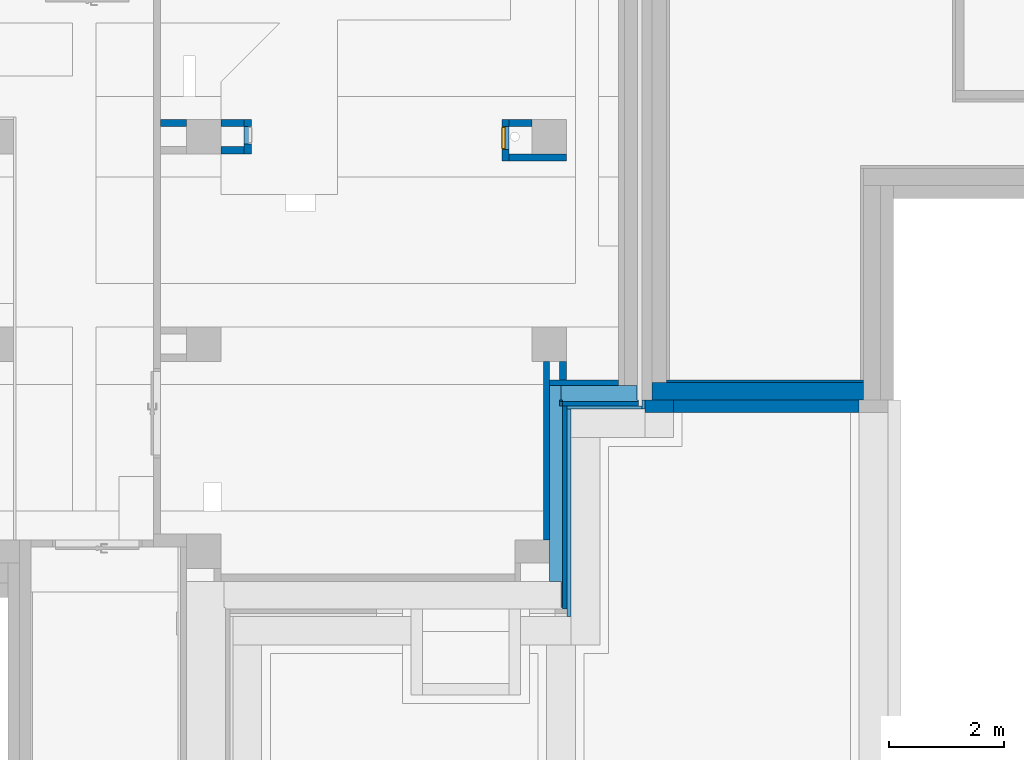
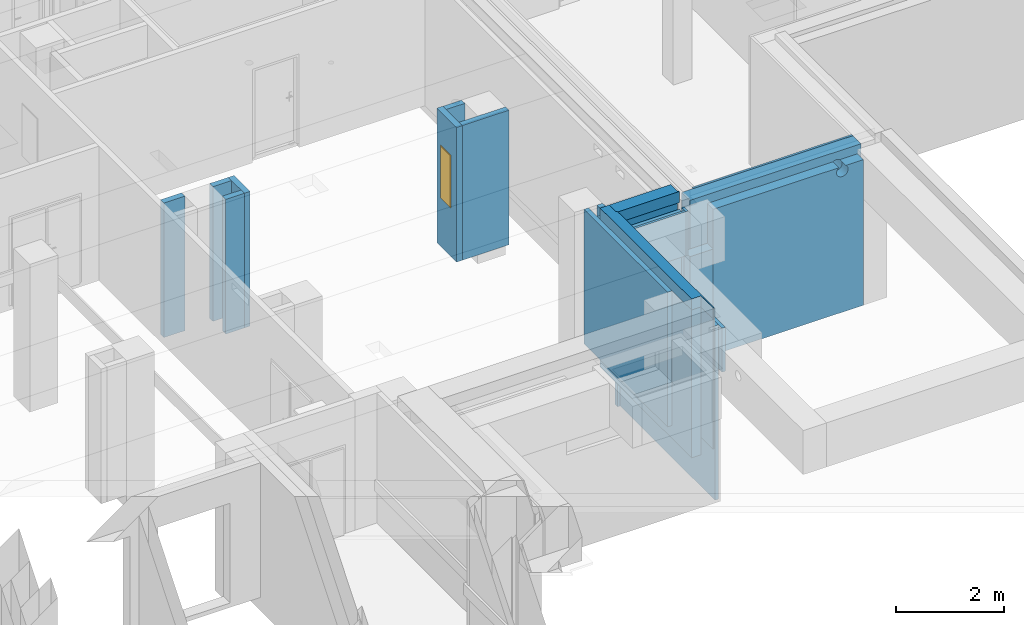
# One storey, part 20 of 84: 21 walls, 1 window, 5 openings.
"""IFC4 building model written with IfcOpenShell, lengths in metres."""

from ifc_helpers import new_model, entity, si_unit, converted_unit, derived_unit, frame, frame_2d, origin, origin_with_axes, place, context, subcontext, project, spatial, polyline, rectangle, outline, extrude, clip, bounded_halfspace, faceted_brep, source, transform, mapped, material, layer, layer_set, layer_usage, element, fill, save


model = new_model("IFC4")

# Units and contexts
model_context = context("Model", 3, precision=1e-05, world=origin())
body_context = subcontext(model_context, "Body", "Model", "MODEL_VIEW")
ifc_project = project(units=[si_unit("LENGTHUNIT", "METRE"), si_unit("AREAUNIT", "SQUARE_METRE"), si_unit("VOLUMEUNIT", "CUBIC_METRE"), si_unit("MASSUNIT", "GRAM", prefix="KILO"), converted_unit("PLANEANGLEUNIT", "DEGREE", entity("IfcPlaneAngleMeasure", 0.0174532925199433), si_unit("PLANEANGLEUNIT", "RADIAN"), dimensions=[0, 0, 0, 0, 0, 0, 0]), derived_unit("THERMALTRANSMITTANCEUNIT", [(si_unit("POWERUNIT", "WATT"), 1), (si_unit("THERMODYNAMICTEMPERATUREUNIT", "KELVIN"), -1), (si_unit("LENGTHUNIT", "METRE"), -2)]), derived_unit("VOLUMETRICFLOWRATEUNIT", [(si_unit("LENGTHUNIT", "METRE"), 3), (converted_unit("TIMEUNIT", "hour", entity("IfcTimeMeasure", 3600.0), si_unit("TIMEUNIT", "SECOND"), dimensions=[0, 0, 1, 0, 0, 0, 0]), -1), (si_unit("LENGTHUNIT", "METRE"), -1)])], contexts=[model_context])

# Site, building, storey
site_placement = place(None, origin())
site = spatial("IfcSite", under=ifc_project, at=site_placement, Name="3. ASŘ", CompositionType="ELEMENT")
building_placement = place(site_placement, origin())
building = spatial("IfcBuilding", under=site, at=building_placement, Name="Pavilon C", CompositionType="ELEMENT")
storey_placement = place(building_placement, frame((0.0, 0.0, -3.3)))
storey = spatial("IfcBuildingStorey", under=building, at=storey_placement, Name="Půdorys 1.PP", CompositionType="ELEMENT", Elevation=-3.3)

# Wall
ifc_material_1 = material(Name="ZDIVO Z CDm")
ifc_layer_1 = layer(ifc_material_1, 0.125)
ifc_layer_set_1 = layer_set([ifc_layer_1])
ifc_layer_usage_1 = layer_usage(ifc_layer_set_1, "AXIS2", "POSITIVE", 0.0)
wall_1_placement = place(storey_placement, frame((50.25, 2.97999999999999, -0.1), z_axis=(0.0, 0.0, 1.0), x_axis=(0.0, 1.0, 0.0)))
element("IfcWall", 1, at=wall_1_placement, inside=storey, material=ifc_layer_usage_1, Name="ZDIVO Z CDm", context=body_context, shape_type="SweptSolid", body=[
    extrude(rectangle(XDim=0.319999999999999, YDim=0.125, at=frame_2d((0.16, 0.0625), x_axis=(1.0, 0.0))), origin_with_axes(), (0.0, 0.0, 1.0), 3.05),
])

# Wall, opening, window
ifc_material_2 = material(Name="ZDIVO Z CDm")
ifc_layer_2 = layer(ifc_material_2, 0.125)
ifc_layer_set_2 = layer_set([ifc_layer_2])
ifc_layer_usage_2 = layer_usage(ifc_layer_set_2, "AXIS2", "POSITIVE", 0.0)
wall_2_placement = place(storey_placement, frame((49.25, 6.77499999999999, -0.1), z_axis=(0.0, 0.0, 1.0), x_axis=(0.0, 1.0, 0.0)))
wall_2 = element("IfcWall", 2, at=wall_2_placement, inside=storey, material=ifc_layer_usage_2, Name="ZDIVO Z CDm", context=body_context, shape_type="SweptSolid", body=[
    extrude(rectangle(XDim=0.725, YDim=0.125, at=frame_2d((0.3625, 0.0625), x_axis=(1.0, 0.0))), origin_with_axes(), (0.0, 0.0, 1.0), 3.05),
])
opening_1_placement = place(wall_2_placement, frame((0.6, 0.125, 1.1), z_axis=(0.0, -1.0, 0.0), x_axis=(0.0, 0.0, 1.0)))
opening_1 = element("IfcOpeningElement", 3, at=opening_1_placement, cuts=wall_2, Name="Okenní otvor", ObjectType="Opening", context=body_context, shape_type="SweptSolid", body=[
    extrude(outline(polyline([(0.0, 0.4), (1.2, 0.4), (1.2, 0.0), (0.0, 0.0), (0.0, 0.4)])), origin_with_axes(), (0.0, 0.0, 1.0), 0.125),
])
shared_shape = source(origin_with_axes(), body_context, "Body", "Brep", [
    faceted_brep([(0.0, 0.0600000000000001, 1.2), (0.0, 0.06, 4.91096680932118e-19), (0.02, 0.06, 4.91096680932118e-19), (0.02, 0.0600000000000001, 1.2), (0.0, 0.01, 6.61433067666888e-18), (0.0, 0.0100000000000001, 1.2), (0.02, 0.0100000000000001, 1.2), (0.02, 0.01, 6.61433067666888e-18)], [[[0, 1, 2, 3]], [[4, 5, 6, 7]], [[1, 0, 5, 4]], [[2, 1, 4, 7]], [[3, 2, 7, 6]], [[0, 3, 6, 5]]], orient=[[False], [False], [False], [False], [False], [False]]),
    faceted_brep([(0.38, 0.0600000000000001, 1.2), (0.38, 0.06, 4.91096680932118e-19), (0.4, 0.06, 4.91096680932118e-19), (0.4, 0.0600000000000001, 1.2), (0.38, 0.01, 6.61433067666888e-18), (0.38, 0.0100000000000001, 1.2), (0.4, 0.0100000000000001, 1.2), (0.4, 0.01, 6.61433067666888e-18)], [[[0, 1, 2, 3]], [[4, 5, 6, 7]], [[1, 0, 5, 4]], [[2, 1, 4, 7]], [[3, 2, 7, 6]], [[0, 3, 6, 5]]], orient=[[False], [False], [False], [False], [False], [False]]),
    faceted_brep([(0.02, 0.06, 0.02), (0.02, 0.06, 4.91096680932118e-19), (0.38, 0.06, 4.91096680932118e-19), (0.38, 0.06, 0.02), (0.02, 0.01, 6.61433067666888e-18), (0.02, 0.01, 0.02), (0.38, 0.01, 0.02), (0.38, 0.01, 6.61433067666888e-18)], [[[0, 1, 2, 3]], [[4, 5, 6, 7]], [[1, 0, 5, 4]], [[2, 1, 4, 7]], [[3, 2, 7, 6]], [[0, 3, 6, 5]]], orient=[[False], [False], [False], [False], [False], [False]]),
    faceted_brep([(0.02, 0.0600000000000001, 1.2), (0.02, 0.0600000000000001, 1.18), (0.38, 0.0600000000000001, 1.18), (0.38, 0.0600000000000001, 1.2), (0.02, 0.0100000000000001, 1.18), (0.02, 0.0100000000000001, 1.2), (0.38, 0.0100000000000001, 1.2), (0.38, 0.0100000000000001, 1.18)], [[[0, 1, 2, 3]], [[4, 5, 6, 7]], [[1, 0, 5, 4]], [[2, 1, 4, 7]], [[3, 2, 7, 6]], [[0, 3, 6, 5]]], orient=[[False], [False], [False], [False], [False], [False]]),
    faceted_brep([(0.02, 0.0100000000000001, 1.18), (0.02, 0.01, 0.02), (0.38, 0.01, 0.02), (0.38, 0.0100000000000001, 1.18), (0.02, 0.0, 0.02), (0.02, 1.4210854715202e-16, 1.18), (0.38, 1.4210854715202e-16, 1.18), (0.38, 0.0, 0.02)], [[[0, 1, 2, 3]], [[4, 5, 6, 7]], [[1, 0, 5, 4]], [[2, 1, 4, 7]], [[3, 2, 7, 6]], [[0, 3, 6, 5]]], orient=[[False], [False], [False], [False], [False], [False]]),
])
window_placement = place(opening_1_placement, frame((0.0, 0.400000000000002, -0.0100000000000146), z_axis=(1.0, 0.0, 0.0), x_axis=(0.0, -1.0, -1.22464679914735e-16)))
window = element("IfcWindow", 4, at=window_placement, inside=storey, Name="O01", OverallHeight=1.2, OverallWidth=0.4, PartitioningType="USERDEFINED", PredefinedType="WINDOW", context=body_context, shape_type="MappedRepresentation", body=[
    mapped(shared_shape, transform((0.0, 0.0, 0.0), x_axis=(1.0, 0.0, 0.0), y_axis=(0.0, -1.0, 0.0), z_axis=(0.0, 0.0, 1.0), scale=1.0)),
])
fill(opening_1, window)

# Walls
ifc_material_3 = material(Name="ZDIVO Z CDm")
ifc_layer_3 = layer(ifc_material_3, 0.125)
ifc_layer_set_3 = layer_set([ifc_layer_3])
ifc_layer_usage_3 = layer_usage(ifc_layer_set_3, "AXIS2", "POSITIVE", 0.0)
wall_3_placement = place(storey_placement, frame((49.25, 7.37499999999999, -0.1)))
element("IfcWall", 5, at=wall_3_placement, inside=storey, material=ifc_layer_usage_3, Name="ZDIVO Z CDm", context=body_context, shape_type="SweptSolid", body=[
    extrude(rectangle(XDim=0.4, YDim=0.125, at=frame_2d((0.2, 0.0625), x_axis=(1.0, 0.0))), origin_with_axes(), (0.0, 0.0, 1.0), 3.05),
])
ifc_material_4 = material(Name="ZDIVO Z CDm")
ifc_layer_4 = layer(ifc_material_4, 0.125)
ifc_layer_set_4 = layer_set([ifc_layer_4])
ifc_layer_usage_4 = layer_usage(ifc_layer_set_4, "AXIS2", "POSITIVE", 0.0)
wall_4_placement = place(storey_placement, frame((50.25, 6.89999999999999, -0.1), z_axis=(0.0, 0.0, 1.0), x_axis=(-1.0, 0.0, 0.0)))
element("IfcWall", 6, at=wall_4_placement, inside=storey, material=ifc_layer_usage_4, Name="ZDIVO Z CDm", context=body_context, shape_type="SweptSolid", body=[
    extrude(rectangle(XDim=1.0, YDim=0.125, at=frame_2d((0.5, 0.0625), x_axis=(1.0, 0.0))), origin_with_axes(), (0.0, 0.0, 1.0), 3.05),
])
ifc_material_5 = material(Name="ZDIVO Z CDm")
ifc_layer_5 = layer(ifc_material_5, 0.125)
ifc_layer_set_5 = layer_set([ifc_layer_5])
ifc_layer_usage_5 = layer_usage(ifc_layer_set_5, "AXIS2", "POSITIVE", 0.0)
wall_5_placement = place(storey_placement, frame((43.65, 7.49999999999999, -0.1), z_axis=(0.0, 0.0, 1.0), x_axis=(-1.0, 0.0, 0.0)))
element("IfcWall", 7, at=wall_5_placement, inside=storey, material=ifc_layer_usage_5, Name="ZDIVO Z CDm", context=body_context, shape_type="SweptSolid", body=[
    extrude(rectangle(XDim=0.45, YDim=0.125, at=frame_2d((0.225, 0.0625), x_axis=(1.0, 0.0))), origin_with_axes(), (0.0, 0.0, 1.0), 3.05),
])
ifc_material_6 = material(Name="PÓROBETONOVÉ ZDIVO")
ifc_layer_6 = layer(ifc_material_6, 0.1)
ifc_layer_set_6 = layer_set([ifc_layer_6])
ifc_layer_usage_6 = layer_usage(ifc_layer_set_6, "AXIS2", "POSITIVE", 0.0)
wall_6_placement = place(storey_placement, frame((49.95, 2.87999999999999, -0.1)))
element("IfcWall", 8, at=wall_6_placement, inside=storey, material=ifc_layer_usage_6, Name="PÓROBETONOVÉ ZDIVO", context=body_context, shape_type="SweptSolid", body=[
    extrude(rectangle(XDim=1.2, YDim=0.1, at=frame_2d((0.6, 0.05), x_axis=(1.0, 0.0))), origin_with_axes(), (0.0, 0.0, 1.0), 3.05),
])
ifc_material_7 = material(Name="PÓROBETONOVÉ ZDIVO")
ifc_layer_7 = layer(ifc_material_7, 0.1)
ifc_layer_set_7 = layer_set([ifc_layer_7])
ifc_layer_usage_7 = layer_usage(ifc_layer_set_7, "AXIS2", "POSITIVE", 0.0)
wall_7_placement = place(storey_placement, frame((49.95, 0.19999999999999, -0.1), z_axis=(0.0, 0.0, 1.0), x_axis=(0.0, 1.0, 0.0)))
element("IfcWall", 9, at=wall_7_placement, inside=storey, material=ifc_layer_usage_7, Name="PÓROBETONOVÉ ZDIVO", context=body_context, shape_type="SweptSolid", body=[
    extrude(rectangle(XDim=3.1, YDim=0.1, at=frame_2d((1.55, 0.05), x_axis=(1.0, 0.0))), origin_with_axes(), (0.0, 0.0, 1.0), 3.05),
])

# Wall, opening
ifc_material_8 = material(Name="ZDIVO Z CDm")
ifc_layer_8 = layer(ifc_material_8, 0.125)
ifc_layer_set_8 = layer_set([ifc_layer_8])
ifc_layer_usage_8 = layer_usage(ifc_layer_set_8, "AXIS2", "POSITIVE", 0.0)
wall_8_placement = place(storey_placement, frame((44.65, 7.49999999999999, -0.1), z_axis=(0.0, 0.0, 1.0), x_axis=(0.0, -1.0, 0.0)))
wall_8 = element("IfcWall", 10, at=wall_8_placement, inside=storey, material=ifc_layer_usage_8, Name="ZDIVO Z CDm", context=body_context, shape_type="SweptSolid", body=[
    extrude(rectangle(XDim=0.6, YDim=0.125, at=frame_2d((0.3, 0.0625), x_axis=(1.0, 0.0))), origin_with_axes(), (0.0, 0.0, 1.0), 3.05),
])
opening_2_placement = place(wall_8_placement, frame((0.425, 0.125, 1.1), z_axis=(0.0, -1.0, 0.0), x_axis=(0.0, 0.0, 1.0)))
element("IfcOpeningElement", 11, at=opening_2_placement, cuts=wall_8, Name="Okenní otvor", ObjectType="Opening", context=body_context, shape_type="SweptSolid", body=[
    extrude(outline(polyline([(0.0, 0.3), (0.3, 0.3), (0.3, 0.0), (0.0, 0.0), (0.0, 0.3)])), origin_with_axes(), (0.0, 0.0, 1.0), 0.125),
])

# Walls
ifc_material_9 = material(Name="ZDIVO Z CDm")
ifc_layer_9 = layer(ifc_material_9, 0.125)
ifc_layer_set_9 = layer_set([ifc_layer_9])
ifc_layer_usage_9 = layer_usage(ifc_layer_set_9, "AXIS2", "POSITIVE", 0.0)
wall_9_placement = place(storey_placement, frame((44.25, 7.37499999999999, -0.1)))
element("IfcWall", 12, at=wall_9_placement, inside=storey, material=ifc_layer_usage_9, Name="ZDIVO Z CDm", context=body_context, shape_type="SweptSolid", body=[
    extrude(rectangle(XDim=0.4, YDim=0.125, at=frame_2d((0.2, 0.0625), x_axis=(1.0, 0.0))), origin_with_axes(), (0.0, 0.0, 1.0), 3.05),
])
ifc_material_10 = material(Name="ZDIVO Z CDm")
ifc_layer_10 = layer(ifc_material_10, 0.125)
ifc_layer_set_10 = layer_set([ifc_layer_10])
ifc_layer_usage_10 = layer_usage(ifc_layer_set_10, "AXIS2", "POSITIVE", 0.0)
wall_10_placement = place(storey_placement, frame((44.25, 6.89999999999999, -0.1)))
element("IfcWall", 13, at=wall_10_placement, inside=storey, material=ifc_layer_usage_10, Name="ZDIVO Z CDm", context=body_context, shape_type="SweptSolid", body=[
    extrude(rectangle(XDim=0.4, YDim=0.125, at=frame_2d((0.2, 0.0625), x_axis=(1.0, 0.0))), origin_with_axes(), (0.0, 0.0, 1.0), 3.05),
])
ifc_material_11 = material(Name="ZELEZOBETONOVÁ KCE")
ifc_layer_11 = layer(ifc_material_11, 0.25)
ifc_material_12 = material(Name="LIGNOPOR")
ifc_layer_12 = layer(ifc_material_12, 0.025)
ifc_material_13 = material(Name="PÓROBETONOVÉ ZDIVO")
ifc_layer_13 = layer(ifc_material_13, 0.08)
ifc_layer_set_11 = layer_set([ifc_layer_11, ifc_layer_12, ifc_layer_13])
ifc_layer_usage_11 = layer_usage(ifc_layer_set_11, "AXIS2", "POSITIVE", 0.0)
wall_11_placement = place(storey_placement, frame((51.25, 2.88, -1.15), z_axis=(0.0, 0.0, 1.0), x_axis=(-1.0, 0.0, 0.0)))
element("IfcWall", 14, at=wall_11_placement, inside=storey, material=ifc_layer_usage_11, Name="ZELEZOBETONOVÁ KCE", context=body_context, shape_type="Clipping", body=[
    clip(clip(clip(clip(clip(clip(extrude(outline(polyline([(-1.37, 0.0), (-1.37, -0.08), (-1.325, -0.08), (-1.325, -0.105), (-1.125, -0.105), (-1.125, -0.355), (-0.025, -0.355), (-0.025, -0.105), (0.0, -0.105), (0.0, 0.0), (-1.37, 0.0)])), frame((1.125, 0.355, 0.0), z_axis=(0.0, 0.0, 1.0), x_axis=(1.0, 0.0, 0.0)), (0.0, 0.0, 1.0), 4.1), bounded_halfspace(frame((0.55, 0.125, 0.75), z_axis=(0.0, 0.0, 1.0), x_axis=(0.0, -1.0, 0.0)), True, origin_with_axes(), polyline([(0.0, 0.25), (0.0, 4.54747350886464e-16), (1.1, 4.54747350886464e-16), (1.1, 0.25), (0.0, 0.25)]))), bounded_halfspace(frame((0.479166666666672, 0.2625, 1.15), z_axis=(1.74902827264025e-16, -7.69572439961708e-15, 1.0), x_axis=(-1.0, 0.0, 0.0)), True, origin_with_axes(), polyline([(1.1, 0.275), (1.075, 0.275), (-0.2, 0.275), (-0.2, 0.25), (0.0, 0.25), (1.1, 0.25), (1.1, 0.275)]))), bounded_halfspace(frame((-0.235, 0.315, 0.55), z_axis=(0.0, 0.0, 1.0), x_axis=(0.0, 1.0, 0.0)), True, origin_with_axes(), polyline([(-0.224999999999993, 0.275), (-0.224999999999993, 0.355), (-0.245, 0.355), (-0.245, 0.275), (-0.224999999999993, 0.275)]))), bounded_halfspace(frame((1.0875, 0.315, 1.15), z_axis=(0.0, 0.0, -1.0), x_axis=(1.0, 0.0, 0.0)), True, origin_with_axes(), polyline([(1.075, 0.275), (1.1, 0.275), (1.1, 0.355), (1.075, 0.355), (1.075, 0.275)]))), bounded_halfspace(frame((1.1125, 0.315, 0.75), z_axis=(0.0, 0.0, -1.0), x_axis=(0.0, -1.0, 0.0)), True, origin_with_axes(), polyline([(1.1, 0.355), (1.1, 0.275), (1.125, 0.275), (1.125, 0.355), (1.1, 0.355)]))), bounded_halfspace(frame((0.292, 0.307, 3.95), z_axis=(1.72252784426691e-16, -5.58744969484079e-15, -1.0), x_axis=(0.0, 1.0, -5.6843418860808e-15)), True, origin_with_axes(), polyline([(1.075, 0.275), (1.075, 0.355), (-0.245, 0.355), (-0.245, 0.275), (-0.2, 0.275), (1.075, 0.275)]))),
])
ifc_material_14 = material(Name="ZELEZOBETONOVÁ KCE")
ifc_layer_14 = layer(ifc_material_14, 0.2)
ifc_material_15 = material(Name="LIGNOPOR")
ifc_layer_15 = layer(ifc_material_15, 0.025)
ifc_material_16 = material(Name="PÓROBETONOVÉ ZDIVO")
ifc_layer_16 = layer(ifc_material_16, 0.08)
ifc_layer_set_12 = layer_set([ifc_layer_14, ifc_layer_15, ifc_layer_16])
ifc_layer_usage_12 = layer_usage(ifc_layer_set_12, "AXIS2", "POSITIVE", 0.0)
wall_12_placement = place(storey_placement, frame((49.95, 2.88, -1.15), z_axis=(0.0, 0.0, 1.0), x_axis=(0.0, -1.0, 0.0)))
element("IfcWall", 15, at=wall_12_placement, inside=storey, material=ifc_layer_usage_12, Name="ZELEZOBETONOVÁ KCE", context=body_context, shape_type="Clipping", body=[
    clip(clip(clip(extrude(outline(polyline([(-3.875, 0.0), (-0.475, 0.0), (-0.475, 0.2), (-0.025, 0.2), (-0.025, 0.225), (0.0, 0.225), (0.0, 0.305), (-3.52, 0.305), (-3.52, 0.225), (-3.6, 0.225), (-3.6, 0.2), (-3.875, 0.2), (-3.875, 0.0)])), frame((3.875, 0.0, 0.0), z_axis=(0.0, 0.0, 1.0), x_axis=(1.0, 0.0, 0.0)), (0.0, 0.0, 1.0), 4.1), bounded_halfspace(frame((1.7, 0.1, 0.750000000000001), z_axis=(0.0, 0.0, 1.0), x_axis=(0.0, -1.0, 0.0)), True, origin_with_axes(), polyline([(0.0, 0.2), (0.0, 0.0), (3.4, 0.0), (3.4, 0.2), (0.0, 0.2)]))), bounded_halfspace(frame((2.00083333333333, 0.2125, 1.15), z_axis=(0.0, 0.0, 1.0), x_axis=(-1.0, 0.0, 0.0)), True, origin_with_axes(), polyline([(0.354999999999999, 0.225000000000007), (0.275, 0.225000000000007), (0.275, 0.200000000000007), (3.4, 0.2), (3.85, 0.200000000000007), (3.85, 0.225000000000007), (0.354999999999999, 0.225000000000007)]))), bounded_halfspace(frame((2.462, 0.257000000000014, 3.95), z_axis=(0.0, 0.0, -1.0), x_axis=(1.0, 0.0, 0.0)), True, origin_with_axes(), polyline([(3.85, 0.225000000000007), (3.875, 0.225000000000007), (3.875, 0.305000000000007), (0.355, 0.305000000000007), (0.355, 0.225000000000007), (3.85, 0.225000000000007)]))),
])
ifc_material_17 = material(Name="ZELEZOBETONOVÁ KCE")
ifc_layer_17 = layer(ifc_material_17, 0.2)
ifc_material_18 = material(Name="LIGNOPOR")
ifc_layer_18 = layer(ifc_material_18, 0.025)
ifc_layer_set_13 = layer_set([ifc_layer_17, ifc_layer_18])
ifc_layer_usage_13 = layer_usage(ifc_layer_set_13, "AXIS2", "POSITIVE", 0.0)
wall_13_placement = place(storey_placement, frame((49.95, 2.88, 2.95), z_axis=(0.0, 0.0, 1.0), x_axis=(0.0, -1.0, 0.0)))
element("IfcWall", 16, at=wall_13_placement, inside=storey, material=ifc_layer_usage_13, context=body_context, shape_type="SweptSolid", body=[
    extrude(outline(polyline([(-3.85, 0.0), (-0.45, 0.0), (-0.45, 0.2), (0.0, 0.2), (0.0, 0.225), (-3.6, 0.225), (-3.6, 0.2), (-3.85, 0.2), (-3.85, 0.0)])), frame((3.85, 0.0, 0.0), z_axis=(0.0, 0.0, 1.0), x_axis=(1.0, 0.0, 0.0)), (0.0, 0.0, 1.0), 0.25),
])
ifc_material_19 = material(Name="ZELEZOBETONOVÁ KCE")
ifc_layer_19 = layer(ifc_material_19, 0.25)
ifc_material_20 = material(Name="LIGNOPOR")
ifc_layer_20 = layer(ifc_material_20, 0.025)
ifc_layer_set_14 = layer_set([ifc_layer_19, ifc_layer_20])
ifc_layer_usage_14 = layer_usage(ifc_layer_set_14, "AXIS2", "POSITIVE", 0.0)
wall_14_placement = place(storey_placement, frame((51.47, 2.88, 2.95), z_axis=(0.0, 0.0, 1.0), x_axis=(-1.0, 0.0, 0.0)))
element("IfcWall", 17, at=wall_14_placement, inside=storey, material=ifc_layer_usage_14, context=body_context, shape_type="SweptSolid", body=[
    extrude(outline(polyline([(-1.32, -0.275), (0.0, -0.275), (0.0, -0.025), (-0.025, -0.025), (-0.025, 0.0), (-1.345, 0.0), (-1.345, -0.025), (-1.32, -0.025), (-1.32, -0.275)])), frame((1.32, 0.275, 0.0), z_axis=(0.0, 0.0, 1.0), x_axis=(1.0, 0.0, 0.0)), (0.0, 0.0, 1.0), 0.25),
])

# Wall, opening
ifc_material_21 = material(Name="AKUSTICKÝ OBKLAD")
ifc_layer_21 = layer(ifc_material_21, 0.05)
ifc_layer_set_15 = layer_set([ifc_layer_21])
ifc_layer_usage_15 = layer_usage(ifc_layer_set_15, "AXIS2", "POSITIVE", 0.0)
wall_15_placement = place(storey_placement, frame((51.98, 2.93, 0.0), z_axis=(0.0, 0.0, 1.0), x_axis=(1.0, -1.32967061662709e-16, 0.0)))
wall_15 = element("IfcWall", 18, at=wall_15_placement, inside=storey, material=ifc_layer_usage_15, Name="AKUSTICKÝ OBKLAD", context=body_context, shape_type="SweptSolid", body=[
    extrude(rectangle(XDim=3.41999999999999, YDim=0.05, at=frame_2d((1.70999999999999, 0.025), x_axis=(1.0, 0.0))), origin_with_axes(), (0.0, 0.0, 1.0), 2.9),
])
opening_3_placement = place(wall_15_placement, frame((3.02384374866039, 0.05, 2.475), z_axis=(0.0, -1.0, 0.0), x_axis=(0.0, 0.0, 1.0)))
element("IfcOpeningElement", 19, at=opening_3_placement, cuts=wall_15, Name="Prostup stěnou", ObjectType="Opening", context=body_context, shape_type="SweptSolid", body=[
    extrude(outline(polyline([(0.125, 0.25), (0.138066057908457, 0.249315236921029), (0.15098896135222, 0.247268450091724), (0.163627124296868, 0.243882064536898), (0.175842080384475, 0.239193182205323), (0.1875, 0.233253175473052), (0.198473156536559, 0.226127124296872), (0.208641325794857, 0.217893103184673), (0.217893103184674, 0.208641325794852), (0.226127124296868, 0.198473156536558), (0.233253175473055, 0.1875), (0.239193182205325, 0.175842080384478), (0.243882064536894, 0.163627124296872), (0.247268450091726, 0.150988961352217), (0.249315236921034, 0.138066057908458), (0.25, 0.125), (0.249315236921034, 0.111933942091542), (0.247268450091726, 0.0990110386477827), (0.243882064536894, 0.0863728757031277), (0.239193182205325, 0.0741579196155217), (0.233253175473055, 0.0624999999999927), (0.226127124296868, 0.0515268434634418), (0.217893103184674, 0.0413586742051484), (0.208641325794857, 0.0321068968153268), (0.198473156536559, 0.0238728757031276), (0.1875, 0.0167468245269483), (0.175842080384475, 0.010806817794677), (0.163627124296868, 0.00611793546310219), (0.15098896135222, 0.00273154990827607), (0.138066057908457, 0.000684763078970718), (0.125, 0.0), (0.111933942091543, 0.000684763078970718), (0.0990110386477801, 0.00273154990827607), (0.0863728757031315, 0.00611793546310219), (0.074157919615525, 0.010806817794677), (0.0625, 0.0167468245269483), (0.0515268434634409, 0.0238728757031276), (0.0413586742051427, 0.0321068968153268), (0.0321068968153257, 0.0413586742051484), (0.0238728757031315, 0.0515268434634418), (0.0167468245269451, 0.0624999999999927), (0.0108068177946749, 0.0741579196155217), (0.00611793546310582, 0.0863728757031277), (0.00273154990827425, 0.0990110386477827), (0.00068476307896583, 0.111933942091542), (0.0, 0.125), (0.00068476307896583, 0.138066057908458), (0.00273154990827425, 0.150988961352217), (0.00611793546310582, 0.163627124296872), (0.0108068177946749, 0.175842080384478), (0.0167468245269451, 0.1875), (0.0238728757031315, 0.198473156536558), (0.0321068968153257, 0.208641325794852), (0.0413586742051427, 0.217893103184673), (0.0515268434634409, 0.226127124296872), (0.0625, 0.233253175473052), (0.074157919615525, 0.239193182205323), (0.0863728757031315, 0.243882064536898), (0.0990110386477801, 0.247268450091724), (0.111933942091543, 0.249315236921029), (0.125, 0.25)])), origin_with_axes(), (0.0, 0.0, 1.0), 0.05),
])

# Wall
ifc_material_22 = material(Name="PERIMETR")
ifc_layer_22 = layer(ifc_material_22, 0.22)
ifc_layer_set_16 = layer_set([ifc_layer_22])
ifc_layer_usage_16 = layer_usage(ifc_layer_set_16, "AXIS2", "POSITIVE", 0.0)
wall_16_placement = place(storey_placement, frame((51.605, 2.41, -0.6)))
element("IfcWall", 20, at=wall_16_placement, inside=storey, material=ifc_layer_usage_16, Name="PERIMETR", context=body_context, shape_type="SweptSolid", body=[
    extrude(rectangle(XDim=0.5, YDim=0.22, at=frame_2d((0.25, 0.11), x_axis=(1.0, 0.0))), origin_with_axes(), (0.0, 0.0, 1.0), 2.4),
])

# Wall, opening
ifc_material_23 = material(Name="PERIMETR")
ifc_layer_23 = layer(ifc_material_23, 0.22)
ifc_layer_set_17 = layer_set([ifc_layer_23])
ifc_layer_usage_17 = layer_usage(ifc_layer_set_17, "AXIS2", "POSITIVE", 0.0)
wall_17_placement = place(storey_placement, frame((55.3250000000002, 2.63, -0.6), z_axis=(0.0, 0.0, 1.0), x_axis=(-1.0, 0.0, 0.0)))
wall_17 = element("IfcWall", 21, at=wall_17_placement, inside=storey, material=ifc_layer_usage_17, Name="PERIMETR", context=body_context, shape_type="SweptSolid", body=[
    extrude(rectangle(XDim=3.22000000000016, YDim=0.22, at=frame_2d((1.61000000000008, 0.11), x_axis=(1.0, 0.0))), origin_with_axes(), (0.0, 0.0, 1.0), 3.3),
])
opening_4_placement = place(wall_17_placement, frame((0.577274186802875, 0.22, 3.075), z_axis=(0.0, -1.0, 0.0), x_axis=(0.0, 0.0, 1.0)))
element("IfcOpeningElement", 22, at=opening_4_placement, cuts=wall_17, Name="ZTI", ObjectType="Opening", context=body_context, shape_type="SweptSolid", body=[
    extrude(outline(polyline([(0.125, 0.0), (0.111933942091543, 0.000684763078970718), (0.0990110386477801, 0.00273154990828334), (0.0863728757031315, 0.00611793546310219), (0.074157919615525, 0.010806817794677), (0.0625, 0.0167468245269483), (0.0515268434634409, 0.0238728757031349), (0.0413586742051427, 0.0321068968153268), (0.0321068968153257, 0.0413586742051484), (0.0238728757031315, 0.0515268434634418), (0.0167468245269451, 0.0625), (0.0108068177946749, 0.0741579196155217), (0.00611793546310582, 0.0863728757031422), (0.00273154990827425, 0.0990110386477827), (0.00068476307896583, 0.111933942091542), (0.0, 0.125), (0.00068476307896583, 0.138066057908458), (0.00273154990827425, 0.150988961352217), (0.00611793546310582, 0.163627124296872), (0.0108068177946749, 0.175842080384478), (0.0167468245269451, 0.1875), (0.0238728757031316, 0.198473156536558), (0.0321068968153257, 0.208641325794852), (0.0413586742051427, 0.217893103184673), (0.0515268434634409, 0.226127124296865), (0.0625, 0.233253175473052), (0.074157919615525, 0.23919318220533), (0.0863728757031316, 0.243882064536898), (0.0990110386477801, 0.247268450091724), (0.111933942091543, 0.249315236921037), (0.125, 0.25), (0.138066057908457, 0.249315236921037), (0.15098896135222, 0.247268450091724), (0.163627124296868, 0.243882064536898), (0.175842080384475, 0.23919318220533), (0.1875, 0.233253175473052), (0.198473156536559, 0.226127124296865), (0.208641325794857, 0.217893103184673), (0.217893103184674, 0.208641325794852), (0.226127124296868, 0.198473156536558), (0.233253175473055, 0.1875), (0.239193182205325, 0.175842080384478), (0.243882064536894, 0.163627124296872), (0.247268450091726, 0.150988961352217), (0.249315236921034, 0.138066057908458), (0.25, 0.125), (0.249315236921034, 0.111933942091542), (0.247268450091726, 0.0990110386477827), (0.243882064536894, 0.0863728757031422), (0.239193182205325, 0.0741579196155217), (0.233253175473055, 0.0625), (0.226127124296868, 0.0515268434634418), (0.217893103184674, 0.0413586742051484), (0.208641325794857, 0.0321068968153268), (0.198473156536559, 0.0238728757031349), (0.1875, 0.0167468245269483), (0.175842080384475, 0.010806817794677), (0.163627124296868, 0.00611793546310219), (0.15098896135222, 0.00273154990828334), (0.138066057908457, 0.000684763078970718), (0.125, 0.0)])), origin_with_axes(), (0.0, 0.0, 1.0), 0.22),
])

# Walls
ifc_material_24 = material(Name="PERIMETR")
ifc_layer_24 = layer(ifc_material_24, 0.05)
ifc_layer_set_18 = layer_set([ifc_layer_24])
ifc_layer_usage_18 = layer_usage(ifc_layer_set_18, "AXIS2", "POSITIVE", 0.0)
wall_18_placement = place(storey_placement, frame((51.605, 2.475, 1.8), z_axis=(0.0, 0.0, 1.0), x_axis=(0.0, 1.0, 0.0)))
element("IfcWall", 23, at=wall_18_placement, inside=storey, material=ifc_layer_usage_18, Name="PERIMETR", context=body_context, shape_type="SweptSolid", body=[
    extrude(rectangle(XDim=0.155000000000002, YDim=0.05, at=frame_2d((0.0775000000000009, 0.025), x_axis=(1.0, 0.0))), origin_with_axes(), (0.0, 0.0, 1.0), 1.0),
])
ifc_material_25 = material(Name="PERIMETR")
ifc_layer_25 = layer(ifc_material_25, 0.05)
ifc_layer_set_19 = layer_set([ifc_layer_25])
ifc_layer_usage_19 = layer_usage(ifc_layer_set_19, "AXIS2", "POSITIVE", 0.0)
wall_19_placement = place(storey_placement, frame((50.255, 2.475, 1.8)))
element("IfcWall", 24, at=wall_19_placement, inside=storey, material=ifc_layer_usage_19, Name="PERIMETR", context=body_context, shape_type="SweptSolid", body=[
    extrude(rectangle(XDim=1.3, YDim=0.05, at=frame_2d((0.65, 0.025), x_axis=(1.0, 0.0))), origin_with_axes(), (0.0, 0.0, 1.0), 1.0),
])
ifc_material_26 = material(Name="PERIMETR")
ifc_layer_26 = layer(ifc_material_26, 0.07)
ifc_layer_set_20 = layer_set([ifc_layer_26])
ifc_layer_usage_20 = layer_usage(ifc_layer_set_20, "AXIS2", "POSITIVE", 0.0)
wall_20_placement = place(storey_placement, frame((50.325, -1.12499999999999, 1.8), z_axis=(0.0, 0.0, 1.0), x_axis=(0.0, 1.0, 0.0)))
element("IfcWall", 25, at=wall_20_placement, inside=storey, material=ifc_layer_usage_20, Name="PERIMETR", context=body_context, shape_type="SweptSolid", body=[
    extrude(rectangle(XDim=3.59999999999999, YDim=0.07, at=frame_2d((1.79999999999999, 0.035), x_axis=(1.0, 0.0))), origin_with_axes(), (0.0, 0.0, 1.0), 1.0),
])

# Wall, opening
ifc_material_27 = material(Name="ZELEZOBETONOVÁ KCE")
ifc_layer_27 = layer(ifc_material_27, 0.3)
ifc_layer_set_21 = layer_set([ifc_layer_27])
ifc_layer_usage_21 = layer_usage(ifc_layer_set_21, "AXIS2", "POSITIVE", 0.0)
wall_21_placement = place(storey_placement, frame((51.73, 2.63, -0.3)))
wall_21 = element("IfcWall", 26, at=wall_21_placement, inside=storey, material=ifc_layer_usage_21, Name="ZELEZOBETONOVÁ KCE", context=body_context, shape_type="SweptSolid", body=[
    extrude(rectangle(XDim=3.66999999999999, YDim=0.3, at=frame_2d((1.83499999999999, 0.15), x_axis=(1.0, 0.0))), origin_with_axes(), (0.0, 0.0, 1.0), 3.2),
])
opening_5_placement = place(wall_21_placement, frame((3.01772581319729, 0.0, 2.775), z_axis=(0.0, 1.0, 0.0), x_axis=(0.0, 0.0, 1.0)))
element("IfcOpeningElement", 27, at=opening_5_placement, cuts=wall_21, Name="ZTI", ObjectType="Opening", context=body_context, shape_type="SweptSolid", body=[
    extrude(outline(polyline([(0.12499999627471, 0.0), (0.111933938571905, 0.000684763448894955), (0.0990110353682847, 0.00273155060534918), (0.0863728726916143, 0.00611793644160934), (0.0741579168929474, 0.0108068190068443), (0.062499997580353, 0.0167468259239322), (0.0515268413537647, 0.0238728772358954), (0.0413586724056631, 0.0321068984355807), (0.0321068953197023, 0.0413586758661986), (0.0238728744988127, 0.0515268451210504), (0.0167468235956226, 0.0625000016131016), (0.0108068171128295, 0.0741579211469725), (0.00611793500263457, 0.0863728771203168), (0.00273154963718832, 0.0990110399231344), (0.000684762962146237, 0.111933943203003), (0.0, 0.125000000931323), (0.000684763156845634, 0.138066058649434), (0.00273155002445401, 0.150988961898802), (0.00611793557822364, 0.163627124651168), (0.0108068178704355, 0.175842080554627), (0.0167468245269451, 0.187500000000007), (0.023872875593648, 0.198473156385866), (0.0321068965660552, 0.208641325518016), (0.0413586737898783, 0.217893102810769), (0.0515268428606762, 0.226127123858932), (0.062499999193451, 0.23325317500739), (0.0741579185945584, 0.239193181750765), (0.0863728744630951, 0.243882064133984), (0.0990110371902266, 0.247268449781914), (0.111933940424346, 0.249315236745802), (0.124999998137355, 0.25), (0.138066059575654, 0.249315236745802), (0.150988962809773, 0.247268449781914), (0.163627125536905, 0.243882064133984), (0.175842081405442, 0.239193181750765), (0.187500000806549, 0.23325317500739), (0.198473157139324, 0.226127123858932), (0.208641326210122, 0.217893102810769), (0.217893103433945, 0.208641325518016), (0.226127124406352, 0.198473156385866), (0.233253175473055, 0.187500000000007), (0.239193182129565, 0.175842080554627), (0.243882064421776, 0.163627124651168), (0.247268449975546, 0.150988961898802), (0.249315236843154, 0.138066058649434), (0.25, 0.125000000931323), (0.249315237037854, 0.111933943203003), (0.247268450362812, 0.0990110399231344), (0.243882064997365, 0.0863728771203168), (0.23919318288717, 0.0741579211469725), (0.233253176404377, 0.0625000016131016), (0.226127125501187, 0.0515268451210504), (0.217893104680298, 0.0413586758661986), (0.208641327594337, 0.0321068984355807), (0.198473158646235, 0.0238728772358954), (0.187500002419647, 0.0167468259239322), (0.175842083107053, 0.0108068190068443), (0.163627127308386, 0.00611793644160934), (0.150988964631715, 0.00273155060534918), (0.138066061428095, 0.000684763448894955), (0.12499999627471, 0.0)])), origin_with_axes(), (0.0, 0.0, 1.0), 0.3),
])

save(model, "model.ifc")
